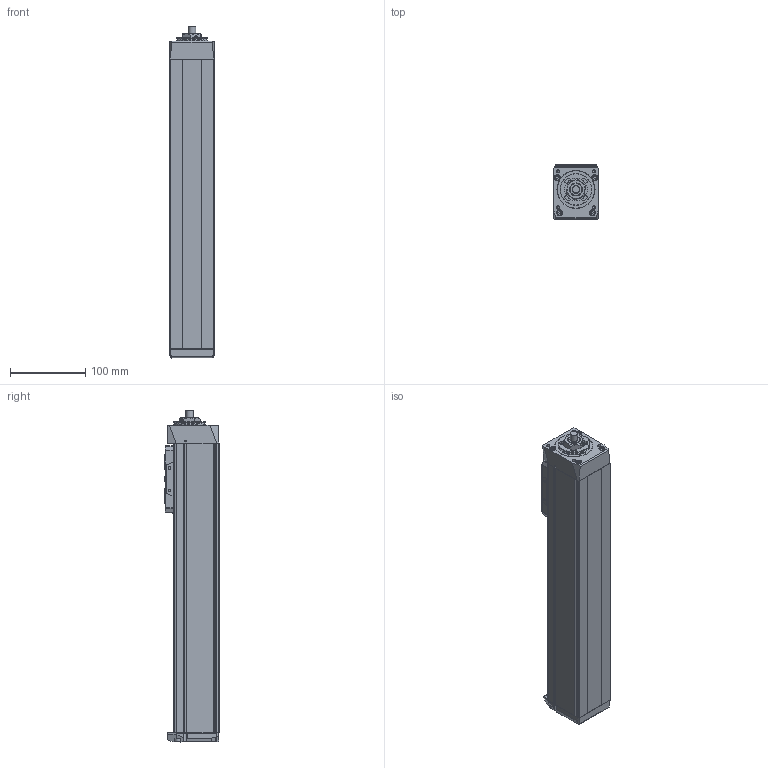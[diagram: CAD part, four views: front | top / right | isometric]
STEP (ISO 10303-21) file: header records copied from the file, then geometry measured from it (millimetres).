
FILE_DESCRIPTION(/* description */ ('STEP AP214'),/* implementation_level */ '2;1');
FILE_NAME(/* name */ 'MGBS 60 1210 250(0)',/* time_stamp */ '2023-04-17T13:18:40+02:00',/* author */ ('License CC BY-ND 4.0'),/* organization */ ('CADENAS'),/* preprocessor_version */ 'ST-DEVELOPER v19.3',/* originating_system */ 'PARTsolutions',/* authorisation */ ' ');
FILE_SCHEMA (('TECHNICAL_DATA_PACKAGING','AP242_MANAGED_MODEL_BASED_3D_ENGINEERING_MIM_LF { 1 0 10303 442 3 1 4 }','AUTOMOTIVE_DESIGN {1 0 10303 214 3 1 1}'));
Length unit declared in the file: millimetre
Products named in the file (6): MGBS 60 1210 250(0); MGBS 60 250_protection_strip; MGBS 60_carriage; MGBS 60_end_block; MGBS 60 250_profile; MGBS 60_drive_block
Assembly tree (5 placements, depth 2):
  MGBS 60 1210 250(0)
    MGBS 60 250_protection_strip
    MGBS 60_carriage
    MGBS 60_end_block
    MGBS 60 250_profile
    MGBS 60_drive_block
Bounding box: 60 x 72 x 442 mm (x, y, z)
Volume: 1530263.7 mm3; surface area: 202719.4 mm2
Topology: 5 solids, 5 shells, 694 faces, 1756 edges, 1135 vertices
Faces by surface type: plane 366, cylinder 144, cone 97, bspline 62, torus 23, sphere 2
Full cylindrical faces by diameter (mm): 2.459 x2, 2.46 x2, 3.242 x4, 4 x14, 4.134 x8, 4.8 x2, 5 x2, 5.5 x4, 7 x8, 7.6 x4, 8 x2, 10 x1, 11 x3, 23.8 x1, 30 x1, 42 x2, 50.2 x1
Entity records: 24817 total; most frequent: CARTESIAN_POINT 4104, DIRECTION 3372, ORIENTED_EDGE 3194, EDGE_CURVE 1597, AXIS2_PLACEMENT_3D 1197, VERTEX_POINT 1113, LINE 978, VECTOR 978
